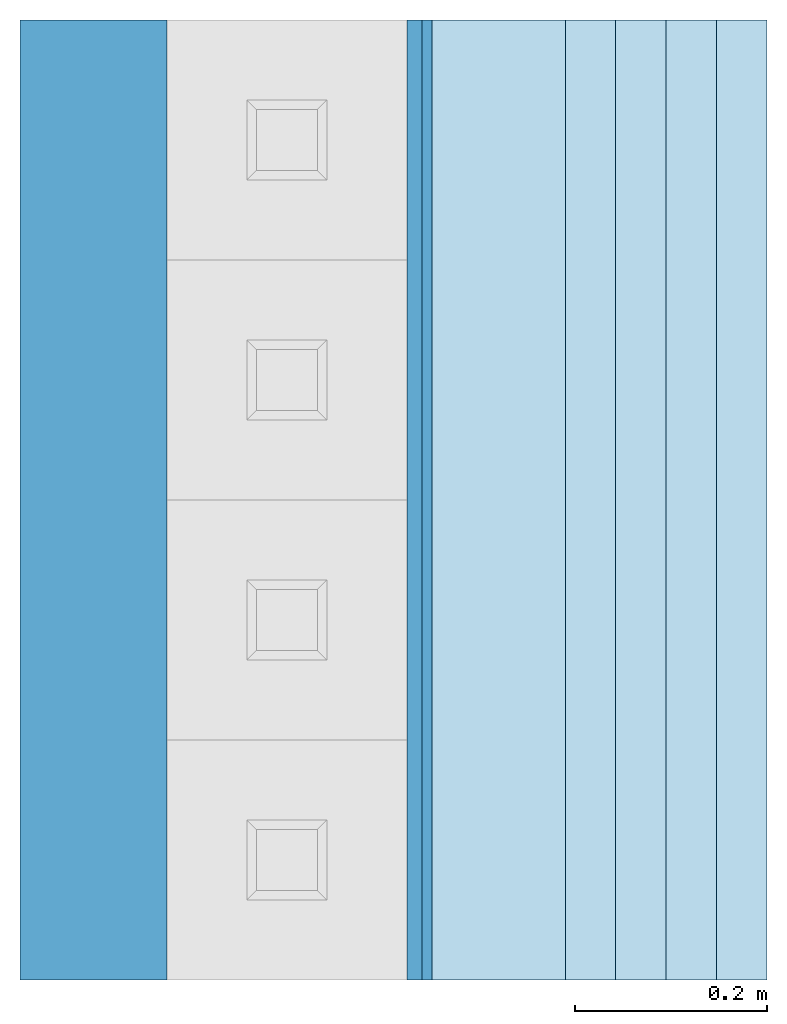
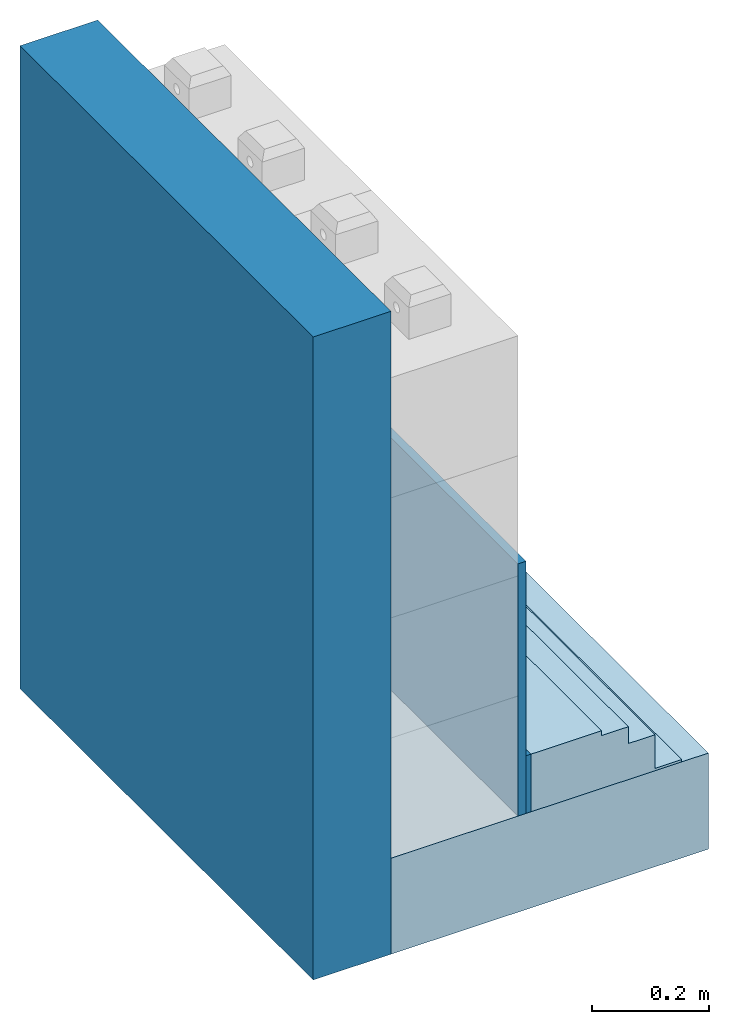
# One storey, incomplete: 3 walls, 2 slabs.
"""IFC4 building model written with IfcOpenShell, lengths in centimetres."""

from ifc_helpers import new_model, entity, si_unit, converted_unit, direction, frame, origin, place, context, subcontext, project, spatial, indexed_curve, outline, extrude, material, constituent, constituent_set, type_object, element, save


model = new_model("IFC4")

# Units and contexts
model_context = context("Model", 3, precision=0.001, world=origin(), true_north=direction((0.0, 1.0)))
body_context = subcontext(model_context, "Body", "Model", "MODEL_VIEW")
ifc_project = project(units=[si_unit("LENGTHUNIT", "METRE", prefix="CENTI"), si_unit("AREAUNIT", "SQUARE_METRE"), si_unit("VOLUMEUNIT", "CUBIC_METRE"), converted_unit("PLANEANGLEUNIT", "DEGREE", entity("IfcPlaneAngleMeasure", 0.017453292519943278), si_unit("PLANEANGLEUNIT", "RADIAN"), dimensions=[0, 0, 0, 0, 0, 0, 0])], contexts=[model_context])

# Site, building, storey
site_placement = place(None, origin())
site = spatial("IfcSite", under=ifc_project, at=site_placement, Name="Default", CompositionType="ELEMENT")
building_placement = place(site_placement, origin())
building = spatial("IfcBuilding", under=site, at=building_placement, CompositionType="ELEMENT")
storey_placement = place(building_placement, frame((0.0, 0.0, -12.0)))
storey = spatial("IfcBuildingStorey", under=building, at=storey_placement, Name="L00__ABOVE Slab", CompositionType="ELEMENT", Elevation=-12.000000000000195)

# Slabs
ifc_material_1 = material(Name="_STRUCTURE__Wood")
ifc_constituent_1 = constituent(ifc_material_1, Name="_STRUCTURE__Wood", fraction=0.75)
ifc_material_2 = material(Name="_FCD LAYERS__Insulation__Wood-fiber__Steico", Category="Unassigned")
ifc_constituent_2 = constituent(ifc_material_2, Name="_FCD LAYERS__Insulation__Wood-fiber__Steico", Category="Unassigned", fraction=0.25)
ifc_constituent_set_1 = constituent_set(constituents=[ifc_constituent_1, ifc_constituent_2], Name="Floor:flr__STRUCTURE__Wood Beams 15cm+insu__TriqBriq 2")
slab_type_1 = type_object("IfcSlabType", Name="Floors : Floor : flr__STRUCTURE__Wood Beams 15cm+insu__TriqBriq 2", PredefinedType="FLOOR", material=ifc_constituent_set_1)
slab_1_placement = place(storey_placement, origin())
element("IfcSlab", 1, at=slab_1_placement, inside=storey, type_object=slab_type_1, material=ifc_constituent_set_1, Name="Floors : Floor : flr__STRUCTURE__Wood Beams 15cm+insu__TriqBriq 2", PredefinedType="FLOOR", context=body_context, shape_type="SweptSolid", body=[
    extrude(outline(indexed_curve([(-31.25000000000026, -50.0), (31.250000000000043, -50.0), (31.250000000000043, 50.0), (-31.25000000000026, 50.0), (-31.25000000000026, -50.0)], self_intersect=False)), frame((1444.3994566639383, 9.371873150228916, -7.5), z_axis=(0.0, 0.0, 1.0), x_axis=(-1.0, 0.0, 0.0)), (0.0, 0.0, 1.0), 15.000000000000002),
    extrude(outline(indexed_curve([(-31.25000000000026, -50.0), (31.250000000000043, -50.0), (31.250000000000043, 50.0), (-31.25000000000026, 50.0), (-31.25000000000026, -50.0)], self_intersect=False)), frame((1444.3994566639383, 9.371873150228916, -12.5), z_axis=(0.0, 0.0, 1.0), x_axis=(-1.0, 0.0, 0.0)), (0.0, 0.0, 1.0), 5.0),
])
ifc_material_3 = material(Name="_FINISH STAIR__Int__Parquet Flooring__Stairs", Category="Unassigned")
ifc_constituent_3 = constituent(ifc_material_3, Name="_FINISH STAIR__Int__Parquet Flooring__Stairs", Category="Unassigned", fraction=0.08333333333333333)
ifc_material_4 = material(Name="_FLR LAYERS__Screed, SL 0.5%__Semi-dry CEM, Rc ≥ 22.5 N/mm²", Category="Concrete")
ifc_constituent_4 = constituent(ifc_material_4, Name="_FLR LAYERS__Screed, SL 0.5%__Semi-dry CEM, Rc ≥ 22.5 N/mm²", Category="Concrete", fraction=0.2916666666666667)
ifc_material_5 = material(Name="_FLR COVERING__Polished Concrete", Category="Concrete")
ifc_constituent_5 = constituent(ifc_material_5, Name="_FLR COVERING__Polished Concrete", Category="Concrete", fraction=0.5833333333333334)
ifc_material_6 = material(Name="_FCD VENT LAYERS__Support Board__OSB 3", Category="Ceramic")
ifc_constituent_6 = constituent(ifc_material_6, Name="_FCD VENT LAYERS__Support Board__OSB 3", Category="Ceramic", fraction=0.041666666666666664)
ifc_constituent_set_2 = constituent_set(constituents=[ifc_constituent_3, ifc_constituent_4, ifc_constituent_5, ifc_constituent_6], Name="Floor:flr__INT COVERING__Parquet")
slab_type_2 = type_object("IfcSlabType", Name="Floors : Floor : flr__INT COVERING__Parquet", PredefinedType="FLOOR", material=ifc_constituent_set_2)
slab_2_placement = place(storey_placement, origin())
element("IfcSlab", 2, at=slab_2_placement, inside=storey, type_object=slab_type_2, material=ifc_constituent_set_2, Name="Floors : Floor : flr__INT COVERING__Parquet", PredefinedType="FLOOR", context=body_context, shape_type="SweptSolid", body=[
    extrude(outline(indexed_curve([(-6.949999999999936, -50.0), (6.949999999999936, -50.0), (6.949999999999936, 50.0), (-6.949999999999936, 50.0), (-6.949999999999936, -50.0)], self_intersect=False)), frame((1447.6994566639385, 9.371873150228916, 18.5), z_axis=(0.0, 0.0, 1.0), x_axis=(-1.0, 0.0, 0.0)), (0.0, 0.0, 1.0), 1.0000000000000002),
    extrude(outline(indexed_curve([(-9.574999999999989, -50.0), (9.574999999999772, -50.0), (9.574999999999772, 50.0), (-9.574999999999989, 50.0), (-9.574999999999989, -50.0)], self_intersect=False)), frame((1450.3244566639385, 9.371873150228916, 15.0), z_axis=(0.0, 0.0, 1.0), x_axis=(-1.0, 0.0, 0.0)), (0.0, 0.0, 1.0), 3.4999999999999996),
    extrude(outline(indexed_curve([(-12.200000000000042, -50.0), (12.199999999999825, -50.0), (12.199999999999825, 50.0), (-12.200000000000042, 50.0), (-12.200000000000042, -50.0)], self_intersect=False)), frame((1452.9494566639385, 9.371873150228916, 8.0), z_axis=(0.0, 0.0, 1.0), x_axis=(-1.0, 0.0, 0.0)), (0.0, 0.0, 1.0), 7.0),
    extrude(outline(indexed_curve([(-14.824999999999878, -50.0), (14.824999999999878, -50.0), (14.824999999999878, 50.0), (-14.824999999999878, 50.0), (-14.824999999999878, -50.0)], self_intersect=False)), frame((1455.5744566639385, 9.371873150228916, 7.500000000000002), z_axis=(0.0, 0.0, 1.0), x_axis=(-1.0, 0.0, 0.0)), (0.0, 0.0, 1.0), 0.49999999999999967),
])

# Walls
ifc_material_7 = material(Name="_WLL & CLG FINISHES__Lime - CEM Plaster", Category="Unassigned")
ifc_constituent_7 = constituent(ifc_material_7, Name="_WLL & CLG FINISHES__Lime - CEM Plaster", Category="Unassigned", fraction=0.37499999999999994)
ifc_material_8 = material(Name="_FCD LAYERS__Insulation__EPS 120__Austrotherm EPS A120")
ifc_constituent_8 = constituent(ifc_material_8, Name="_FCD LAYERS__Insulation__EPS 120__Austrotherm EPS A120", fraction=0.625)
ifc_constituent_set_3 = constituent_set(constituents=[ifc_constituent_7, ifc_constituent_8], Name="Basic Wall:wll__INT FINISH__Spritzkork, Lime - CEM Plaster 2.4cm TRIQBRIQ")
wall_type_1 = type_object("IfcWallType", Name="Walls : Basic Wall : wll__INT FINISH__Spritzkork, Lime - CEM Plaster 2.4cm TRIQBRIQ", PredefinedType="STANDARD", material=ifc_constituent_set_3)
wall_1_placement = place(storey_placement, frame((1438.949456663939, 59.37187315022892, 7.500000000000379), z_axis=(0.0, 0.0, 1.0), x_axis=(0.0, -1.0, 0.0)))
element("IfcWall", 3, at=wall_1_placement, inside=storey, type_object=wall_type_1, material=ifc_constituent_set_3, Name="Walls : Basic Wall : wll__INT FINISH__Spritzkork, Lime - CEM Plaster 2.4cm TRIQBRIQ", PredefinedType="NOTDEFINED", context=body_context, shape_type="SweptSolid", body=[
    extrude(outline(indexed_curve([(-0.5000000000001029, -50.000000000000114), (0.4999999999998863, -50.000000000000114), (0.5000000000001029, 50.000000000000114), (-0.4999999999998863, 50.000000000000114), (-0.5000000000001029, -50.000000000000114)], self_intersect=False)), frame((50.0, -0.3000000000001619, 0.0), z_axis=(0.0, 0.0, 1.0), x_axis=(0.0, 1.0, 0.0)), (0.0, 0.0, 1.0), 52.500000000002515),
    extrude(outline(indexed_curve([(-0.30000000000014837, -50.000000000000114), (0.29999999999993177, -50.000000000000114), (0.30000000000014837, 50.000000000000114), (-0.29999999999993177, 50.000000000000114), (-0.30000000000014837, -50.000000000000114)], self_intersect=False)), frame((50.0, 0.49999999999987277, 0.0), z_axis=(0.0, 0.0, 1.0), x_axis=(0.0, -1.0, 0.0)), (0.0, 0.0, 1.0), 52.500000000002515),
])
ifc_material_9 = material(Name="_FCD FINISH__Mineral Render__Combed, H L/O__Capatect Kreativeffekt \"Filigrano\"__White", Category="Concrete")
ifc_constituent_9 = constituent(ifc_material_9, Name="_FCD FINISH__Mineral Render__Combed, H L/O__Capatect Kreativeffekt \"Filigrano\"__White", Category="Concrete", fraction=0.0196078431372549)
ifc_material_10 = material(Name="_STRUCTURE__Wood Solid")
ifc_constituent_10 = constituent(ifc_material_10, Name="_STRUCTURE__Wood Solid", fraction=0.06535947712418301)
ifc_constituent_11 = constituent(ifc_material_2, Name="_FCD LAYERS__Insulation__Wood-fiber__Steico", Category="Unassigned", fraction=0.9150326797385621)
ifc_constituent_set_4 = constituent_set(constituents=[ifc_constituent_9, ifc_constituent_10, ifc_constituent_11], Name="Basic Wall:wll__EXT ENCLOSURE__Spritzkork, Wood Insulation 8.4cm__TriqBriq, FS.1")
wall_type_2 = type_object("IfcWallType", Name="Walls : Basic Wall : wll__EXT ENCLOSURE__Spritzkork, Wood Insulation 8.4cm__TriqBriq, FS.1", PredefinedType="STANDARD", material=ifc_constituent_set_4)
wall_2_placement = place(storey_placement, frame((1405.499456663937, -40.62812684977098, -12.5), z_axis=(0.0, 0.0, 1.0), x_axis=(0.0, 1.0, 0.0)))
element("IfcWall", 4, at=wall_2_placement, inside=storey, type_object=wall_type_2, material=ifc_constituent_set_4, Name="Walls : Basic Wall : wll__EXT ENCLOSURE__Spritzkork, Wood Insulation 8.4cm__TriqBriq, FS.1", PredefinedType="NOTDEFINED", context=body_context, shape_type="SweptSolid", body=[
    extrude(outline(indexed_curve([(-50.000000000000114, -0.4999999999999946), (50.000000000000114, -0.4999999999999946), (50.000000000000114, 0.4999999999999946), (-50.00000000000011, 0.4999999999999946), (-50.000000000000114, -0.4999999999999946)], self_intersect=False)), frame((50.0, 6.850000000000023, 0.0)), (0.0, 0.0, 1.0), 133.84553506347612),
    extrude(outline(indexed_curve([(-7.000000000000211, -50.000000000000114), (7.000000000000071, -50.000000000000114), (6.999999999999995, 50.000000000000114), (-7.000000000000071, 50.000000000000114), (-7.000000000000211, -50.000000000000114)], self_intersect=False)), frame((50.0, -0.6500000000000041, 0.0), z_axis=(0.0, 0.0, 1.0), x_axis=(0.0, 1.0, 0.0)), (0.0, 0.0, 1.0), 133.84553506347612),
    extrude(outline(indexed_curve([(-0.15000000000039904, -50.000000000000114), (0.14999999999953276, -50.000000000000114), (0.15000000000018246, 50.000000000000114), (-0.14999999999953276, 50.000000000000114), (-0.15000000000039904, -50.000000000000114)], self_intersect=False)), frame((50.0, 7.499999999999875, 0.0), z_axis=(0.0, 0.0, 1.0), x_axis=(0.0, -1.0, 0.0)), (0.0, 0.0, 1.0), 133.84553506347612),
])
ifc_material_11 = material(Name="_FND LAYERS__Insulation__Foam Glass__Glapor", Category="Unassigned")
ifc_constituent_12 = constituent(ifc_material_11, Name="_FND LAYERS__Insulation__Foam Glass__Glapor", Category="Unassigned", fraction=1.0)
ifc_constituent_set_5 = constituent_set(constituents=[ifc_constituent_12], Name="Basic Wall:wll__WP & INSULATION_1cm")
wall_type_3 = type_object("IfcWallType", Name="Walls : Basic Wall : wll__WP & INSULATION_1cm", PredefinedType="STANDARD", material=ifc_constituent_set_5)
wall_3_placement = place(storey_placement, frame((1440.2494566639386, 59.37187315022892, 7.5000000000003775), z_axis=(0.0, 0.0, 1.0), x_axis=(0.0, -1.0, 0.0)))
element("IfcWall", 5, at=wall_3_placement, inside=storey, type_object=wall_type_3, material=ifc_constituent_set_5, Name="Walls : Basic Wall : wll__WP & INSULATION_1cm", PredefinedType="NOTDEFINED", context=body_context, shape_type="SweptSolid", body=[
    extrude(outline(indexed_curve([(100.00000000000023, 0.5000000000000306), (-7.219114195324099e-16, 0.5000000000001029), (7.219114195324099e-16, -0.5000000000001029), (100.00000000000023, -0.5000000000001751), (100.00000000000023, 0.5000000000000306)], self_intersect=False)), origin(), (0.0, 0.0, 1.0), 11.99999999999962),
])

save(model, "model.ifc")
